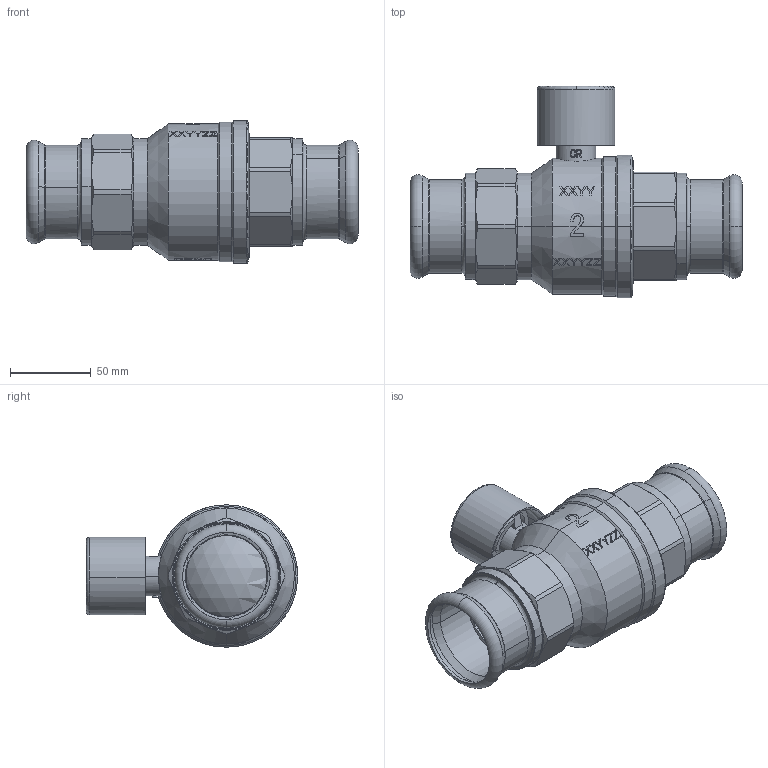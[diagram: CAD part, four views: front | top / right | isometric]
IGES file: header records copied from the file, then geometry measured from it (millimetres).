
Global section: file name: No Iges File Name specified; native system: AutoDesk Inventor R12.0; preprocessor: AutoDesk Inventor Iges Exporter R12.0; date: 20111212.114306; units: millimetre
Bounding box: 205 x 130.51 x 88 mm (x, y, z)
Volume: 93525.3 mm3; surface area: 165865.9 mm2
Topology: 1 solids, 9 shells, 1079 faces, 3034 edges, 2026 vertices
Faces by surface type: plane 477, bspline 253, revolution 122, cylinder 102, cone 92, torus 28, sphere 5
